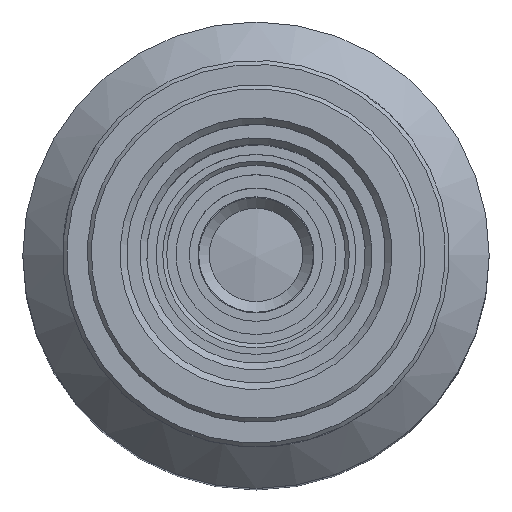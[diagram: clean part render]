
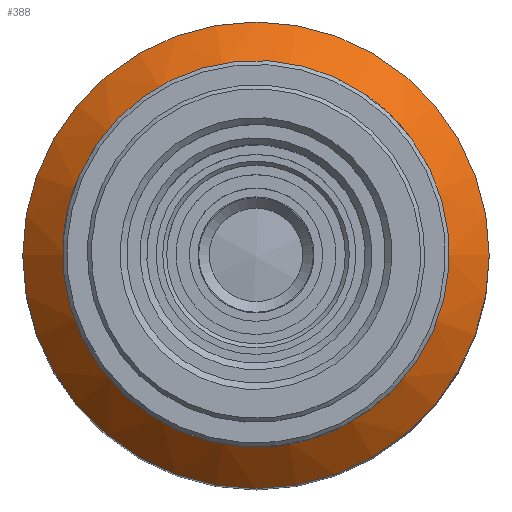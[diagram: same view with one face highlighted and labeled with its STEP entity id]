
A CAD part, top view. The second image highlights one B-rep face of the part: STEP entity #388.
In plain terms, the highlighted conical face has half-angle 45 degrees and reference radius 11 mm.
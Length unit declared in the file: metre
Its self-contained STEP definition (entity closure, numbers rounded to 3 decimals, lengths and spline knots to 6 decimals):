
#388=ADVANCED_FACE('NONE',(#936,#937),#938,.T.);
#936=FACE_OUTER_BOUND('',#1835,.T.);
#937=FACE_BOUND('',#1836,.T.);
#938=CONICAL_SURFACE('',#1837,0.011,0.785);
#1835=EDGE_LOOP('',(#2856));
#1836=EDGE_LOOP('',(#2857));
#1837=AXIS2_PLACEMENT_3D('',#2858,#2859,#2860);
#2856=ORIENTED_EDGE('',*,*,#3999,.F.);
#2857=ORIENTED_EDGE('',*,*,#4001,.T.);
#2858=CARTESIAN_POINT('',(0.004447,0.005065,0.02657));
#2859=DIRECTION('',(0.,-0.0,-1.0));
#2860=DIRECTION('',(-1.0,0.0,0.));
#3999=EDGE_CURVE('NONE',#4628,#4628,#4629,.T.);
#4001=EDGE_CURVE('NONE',#4631,#4631,#4632,.T.);
#4628=VERTEX_POINT('',#5756);
#4629=CIRCLE('',#5757,0.0175);
#4631=VERTEX_POINT('',#5759);
#4632=CIRCLE('',#5760,0.011);
#5756=CARTESIAN_POINT('',(-0.013053,0.005065,0.02007));
#5757=AXIS2_PLACEMENT_3D('',#6556,#6557,#6558);
#5759=CARTESIAN_POINT('',(-0.006553,0.005065,0.02657));
#5760=AXIS2_PLACEMENT_3D('',#6559,#6560,#6561);
#6556=CARTESIAN_POINT('',(0.004447,0.005065,0.02007));
#6557=DIRECTION('',(0.,0.0,-1.0));
#6558=DIRECTION('',(-1.0,0.0,0.));
#6559=CARTESIAN_POINT('',(0.004447,0.005065,0.02657));
#6560=DIRECTION('',(0.,0.0,-1.0));
#6561=DIRECTION('',(-1.0,0.0,0.));
